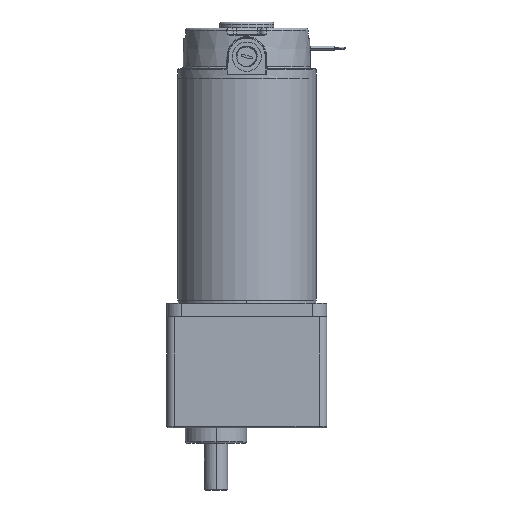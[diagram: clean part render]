
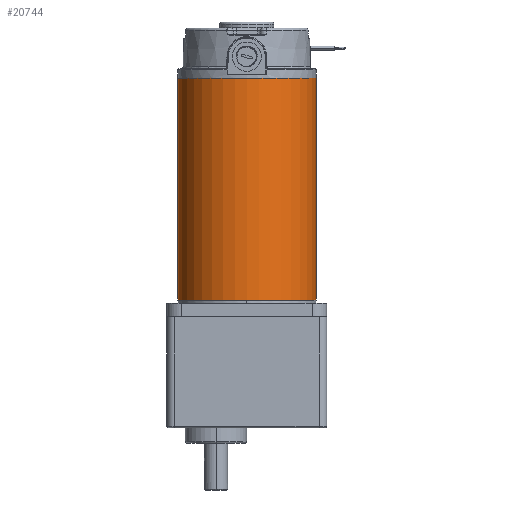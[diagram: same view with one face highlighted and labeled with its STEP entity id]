
A CAD part, front view. The second image highlights one B-rep face of the part: STEP entity #20744.
In plain terms, the highlighted cylindrical face has radius 45 mm (diameter 90 mm), a partial arc.
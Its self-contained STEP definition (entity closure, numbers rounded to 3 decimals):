
#176 = CIRCLE ( 'NONE', #11017, 45. ) ;
#1063 = EDGE_CURVE ( 'NONE', #4339, #9208, #3305, .T. ) ;
#1122 = CARTESIAN_POINT ( 'NONE',  ( 0., 0., -144. ) ) ;
#1638 = AXIS2_PLACEMENT_3D ( 'NONE', #13502, #13475, #13471 ) ;
#2943 = VERTEX_POINT ( 'NONE', #16189 ) ;
#3081 = DIRECTION ( 'NONE',  ( 1., 0., 0. ) ) ;
#3305 = CIRCLE ( 'NONE', #1638, 45. ) ;
#4339 = VERTEX_POINT ( 'NONE', #11506 ) ;
#5382 = ORIENTED_EDGE ( 'NONE', *, *, #13172, .T. ) ;
#6999 = LINE ( 'NONE', #9293, #21750 ) ;
#8500 = DIRECTION ( 'NONE',  ( 0., 0., 1. ) ) ;
#8527 = CARTESIAN_POINT ( 'NONE',  ( -45., 0., -144. ) ) ;
#9178 = CARTESIAN_POINT ( 'NONE',  ( 0., 0., -144. ) ) ;
#9208 = VERTEX_POINT ( 'NONE', #17476 ) ;
#9293 = CARTESIAN_POINT ( 'NONE',  ( 45., 0., -144. ) ) ;
#11017 = AXIS2_PLACEMENT_3D ( 'NONE', #9178, #22582, #11126 ) ;
#11126 = DIRECTION ( 'NONE',  ( -1., 0., 0. ) ) ;
#11506 = CARTESIAN_POINT ( 'NONE',  ( 45., 0., 0. ) ) ;
#13172 = EDGE_CURVE ( 'NONE', #2943, #4339, #6999, .T. ) ;
#13471 = DIRECTION ( 'NONE',  ( -1., 0., 0. ) ) ;
#13475 = DIRECTION ( 'NONE',  ( 0., 0., -1. ) ) ;
#13502 = CARTESIAN_POINT ( 'NONE',  ( 0., 0., 0. ) ) ;
#13854 = EDGE_CURVE ( 'NONE', #19034, #9208, #22285, .T. ) ;
#14854 = FACE_OUTER_BOUND ( 'NONE', #16862, .T. ) ;
#16189 = CARTESIAN_POINT ( 'NONE',  ( 45., 0., -144. ) ) ;
#16862 = EDGE_LOOP ( 'NONE', ( #23750, #17111, #5382, #18754 ) ) ;
#17098 = DIRECTION ( 'NONE',  ( 0., 0., 1. ) ) ;
#17111 = ORIENTED_EDGE ( 'NONE', *, *, #22781, .F. ) ;
#17314 = AXIS2_PLACEMENT_3D ( 'NONE', #1122, #20654, #3081 ) ;
#17345 = VECTOR ( 'NONE', #8500, 1000. ) ;
#17476 = CARTESIAN_POINT ( 'NONE',  ( -45., 0., 0. ) ) ;
#18754 = ORIENTED_EDGE ( 'NONE', *, *, #1063, .T. ) ;
#19034 = VERTEX_POINT ( 'NONE', #8527 ) ;
#19395 = CYLINDRICAL_SURFACE ( 'NONE', #17314, 45. ) ;
#20654 = DIRECTION ( 'NONE',  ( 0., 0., 1. ) ) ;
#20744 = ADVANCED_FACE ( 'NONE', ( #14854 ), #19395, .T. ) ;
#21750 = VECTOR ( 'NONE', #17098, 1000. ) ;
#21807 = CARTESIAN_POINT ( 'NONE',  ( -45., 0., -144. ) ) ;
#22285 = LINE ( 'NONE', #21807, #17345 ) ;
#22582 = DIRECTION ( 'NONE',  ( 0., 0., -1. ) ) ;
#22781 = EDGE_CURVE ( 'NONE', #2943, #19034, #176, .T. ) ;
#23750 = ORIENTED_EDGE ( 'NONE', *, *, #13854, .F. ) ;
